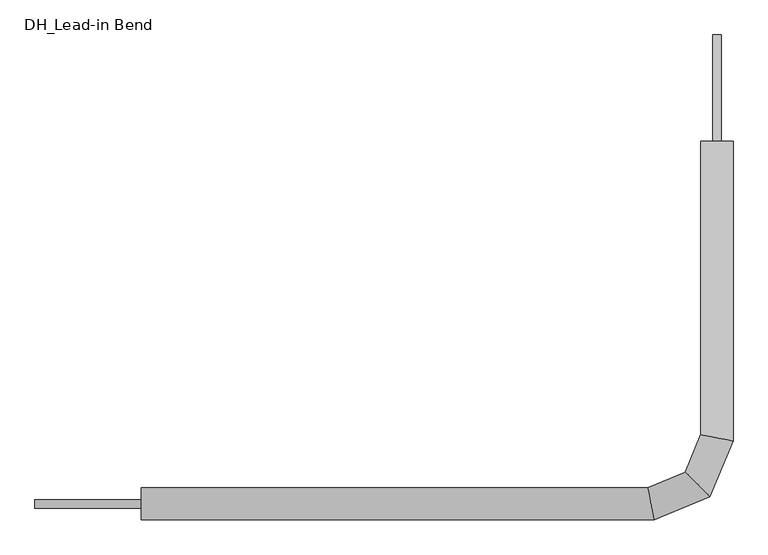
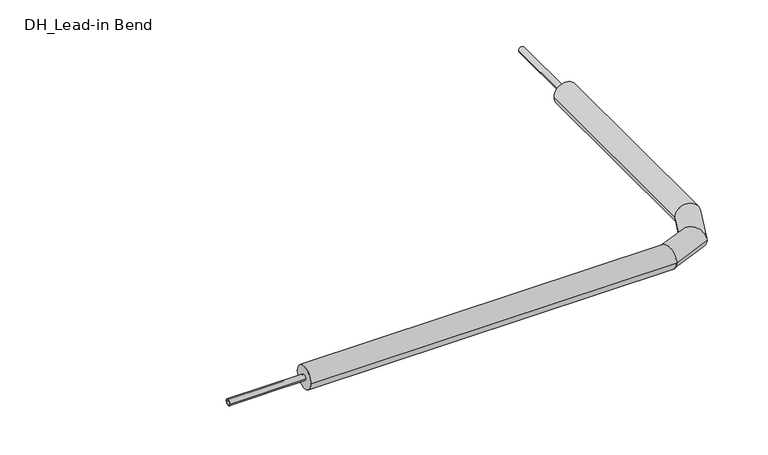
"""IFC4 building model written with IfcOpenShell, lengths in millimetres: pipe fitting geometry, DH_Lead-in Bend : RVT/RVX/RTX UNO 7.4 MKV DW."""

from ifc_helpers import new_model, si_unit, point, frame, origin, origin_2d, place, context, project, spatial, circle_curve, ellipse_curve, trimmed, segment, composite_curve, outline, extrude, source, transform, mapped, element, save
from ifc_brep_helpers import plane_surface, cylinder_surface, advanced_brep


def dh_lead_in_bend_4d12e4c8(model_context):
    return source(origin(), model_context, "Body", "SolidModel", [
        advanced_brep(
        [(-1350.0, -38.0, 0.0), (-1350.0, 38.0, 0.0), (-147.44133, -38.0, 0.0), (-162.55867, 38.0, 0.0), (38.0, 850.0, 0.0), (-38.0, 850.0, 0.0), (-38.0, 162.55867, 0.0), (38.0, 147.44133, 0.0), (-16.3145081, 16.3145081, 0.0), (-74.4823898, 74.4823898, 0.0)],
        [
            (0, 1, circle_curve(frame((-1350.0, 0.0, 0.0), z_axis=(-1.0, 0.0, 0.0), x_axis=(0.0, 1.0, 0.0)), 38.0)),
            (1, 0, circle_curve(frame((-1350.0, 0.0, 0.0), z_axis=(-1.0, 0.0, 0.0), x_axis=(0.0, 1.0, 0.0)), 38.0)),
            (0, 2),
            (2, 3, ellipse_curve(frame((-155.0, 0.0, 0.0), z_axis=(-0.9807852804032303, -0.19509032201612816, 0.0), x_axis=(-0.19509032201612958, 0.9807852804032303, 0.0)), 38.744464, 38.0)),
            (3, 1),
            (3, 2, ellipse_curve(frame((-155.0, 0.0, 0.0), z_axis=(-0.9807852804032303, -0.19509032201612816, 0.0), x_axis=(-0.19509032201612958, 0.9807852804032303, 0.0)), 38.744464, 38.0)),
            (4, 5, circle_curve(frame((0.0, 850.0, 0.0), z_axis=(0.0, 1.0, 0.0), x_axis=(-1.0, 0.0, 0.0)), 38.0)),
            (5, 4, circle_curve(frame((0.0, 850.0, 0.0), z_axis=(0.0, 1.0, 0.0), x_axis=(-1.0, 0.0, 0.0)), 38.0)),
            (6, 7, ellipse_curve(frame((0.0, 155.0, 0.0), z_axis=(0.1950903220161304, 0.9807852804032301, 0.0), x_axis=(0.9807852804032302, -0.1950903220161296, 0.0)), 38.744464, 38.0)),
            (7, 4),
            (5, 6),
            (7, 6, ellipse_curve(frame((0.0, 155.0, 0.0), z_axis=(0.1950903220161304, 0.9807852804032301, 0.0), x_axis=(0.9807852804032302, -0.1950903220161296, 0.0)), 38.744464, 38.0)),
            (2, 8),
            (8, 9, ellipse_curve(frame((-45.3984489, 45.3984489, 0.0), z_axis=(-0.707106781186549, -0.7071067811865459, 0.0), x_axis=(-0.7071067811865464, 0.7071067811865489, 0.0)), 41.1309036, 38.0)),
            (9, 3),
            (9, 8, ellipse_curve(frame((-45.3984489, 45.3984489, 0.0), z_axis=(-0.707106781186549, -0.7071067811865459, 0.0), x_axis=(-0.7071067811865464, 0.7071067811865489, 0.0)), 41.1309036, 38.0)),
            (8, 7),
            (6, 9),
        ],
        [
            plane_surface(frame((-1350.0, 0.0, 0.0), z_axis=(-1.0, 0.0, 0.0), x_axis=(0.0, 0.0, 1.0))),
            cylinder_surface(frame((-1350.0, 0.0, 0.0), z_axis=(-1.0, 0.0, 0.0), x_axis=(0.0, 1.0, 0.0)), 38.0),
            plane_surface(frame((0.0, 850.0, 0.0), z_axis=(0.0, 1.0, 0.0), x_axis=(0.0, 0.0, 1.0))),
            cylinder_surface(frame((0.0, 155.0, 0.0), z_axis=(0.0, -1.0, 0.0), x_axis=(-1.0, 0.0, 0.0)), 38.0),
            cylinder_surface(frame((-155.0, 0.0, 0.0), z_axis=(-0.9238795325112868, -0.38268343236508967, 0.0), x_axis=(-0.38268343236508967, 0.9238795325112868, 0.0)), 38.0),
            cylinder_surface(frame((-45.3984489, 45.3984489, 0.0), z_axis=(-0.3826834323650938, -0.9238795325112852, 0.0), x_axis=(-0.9238795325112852, 0.3826834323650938, 0.0)), 38.0),
        ],
        [
            (0, [[1, 2]]),
            (1, [[-1, 3, 4, 5]]),
            (1, [[-2, -5, 6, -3]]),
            (2, [[7, 8]]),
            (3, [[9, 10, -8, 11]]),
            (3, [[12, -11, -7, -10]]),
            (4, [[-4, 13, 14, 15]]),
            (4, [[-6, -15, 16, -13]]),
            (5, [[-14, 17, -9, 18]]),
            (5, [[-16, -18, -12, -17]]),
        ],
    ),
        extrude(outline(composite_curve([segment(trimmed(circle_curve(origin_2d(), 10.0), [point((-10.0, 0.0))], [point((10.0, 0.0))], False, "CARTESIAN"), True, "CONTINUOUS"), segment(trimmed(circle_curve(origin_2d(), 10.0), [point((10.0, 0.0))], [point((-10.0, 0.0))], False, "CARTESIAN"), True, "CONTINUOUS")], self_intersect=False), holes=[composite_curve([segment(trimmed(circle_curve(origin_2d(), 7.2), [point((-7.2, 0.0))], [point((7.2, 0.0))], True, "CARTESIAN"), True, "CONTINUOUS"), segment(trimmed(circle_curve(origin_2d(), 7.2), [point((7.2, 0.0))], [point((-7.2, 0.0))], True, "CARTESIAN"), True, "CONTINUOUS")], self_intersect=False)]), frame((-1600.0, 0.0, 0.0), z_axis=(1.0, 0.0, 0.0), x_axis=(0.0, 1.0, 0.0)), (0.0, 0.0, 1.0), 250.0),
        extrude(outline(composite_curve([segment(trimmed(circle_curve(origin_2d(), 10.0), [point((0.0, 10.0))], [point((0.0, -10.0))], False, "CARTESIAN"), True, "CONTINUOUS"), segment(trimmed(circle_curve(origin_2d(), 10.0), [point((0.0, -10.0))], [point((0.0, 10.0))], False, "CARTESIAN"), True, "CONTINUOUS")], self_intersect=False), holes=[composite_curve([segment(trimmed(circle_curve(origin_2d(), 7.2), [point((0.0, 7.2))], [point((0.0, -7.2))], True, "CARTESIAN"), True, "CONTINUOUS"), segment(trimmed(circle_curve(origin_2d(), 7.2), [point((0.0, -7.2))], [point((0.0, 7.2))], True, "CARTESIAN"), True, "CONTINUOUS")], self_intersect=False)]), frame((0.0, 850.0, 0.0), z_axis=(0.0, 1.0, 0.0), x_axis=(0.0, 0.0, 1.0)), (0.0, 0.0, 1.0), 250.0),
    ])


if __name__ == "__main__":
    model = new_model("IFC4")
    model_context = context("Model", 3, world=origin())
    ifc_project = project(units=[si_unit("LENGTHUNIT", "METRE", prefix="MILLI")], contexts=[model_context])
    site = spatial("IfcSite", under=ifc_project)
    building = spatial("IfcBuilding", under=site)
    placement = place(None, origin())
    dh_lead_in_bend_shape = dh_lead_in_bend_4d12e4c8(model_context)
    element("IfcPipeFitting", 1, ObjectType="DH_Lead-in Bend : RVT/RVX/RTX UNO 7.4 MKV DW", at=placement, inside=building, context=model_context, shape_type="MappedRepresentation", body=[
        mapped(dh_lead_in_bend_shape, transform((0.0, 0.0, 0.0), x_axis=(1.0, 0.0, 0.0), y_axis=(0.0, 1.0, 0.0), z_axis=(0.0, 0.0, 1.0))),
    ])
    save(model, "model.ifc")
